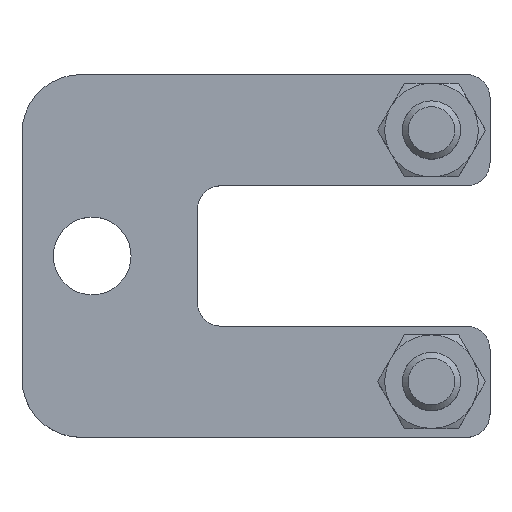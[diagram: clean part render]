
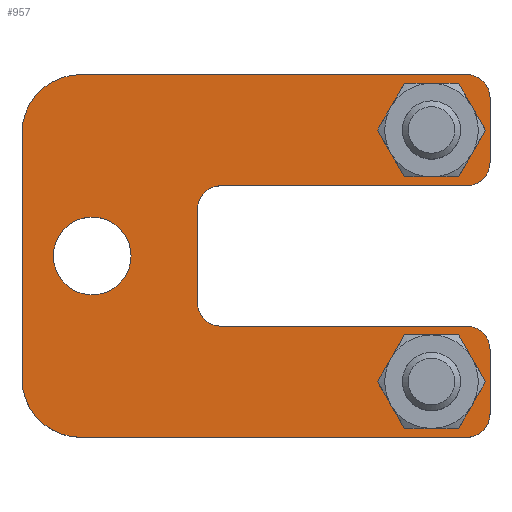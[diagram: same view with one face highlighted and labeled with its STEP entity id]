
A CAD part, top view. The second image highlights one B-rep face of the part: STEP entity #957.
In plain terms, the highlighted planar face has unit normal (0, 0, 1).
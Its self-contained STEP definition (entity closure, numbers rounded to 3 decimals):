
#122=FACE_BOUND('',#267,.T.);
#123=FACE_BOUND('',#268,.T.);
#124=FACE_BOUND('',#269,.T.);
#159=PLANE('',#1057);
#196=FACE_OUTER_BOUND('',#266,.T.);
#266=EDGE_LOOP('',(#767,#768,#769,#770,#771,#772,#773,#774,#775,#776,#777,
#778,#779,#780,#781,#782));
#267=EDGE_LOOP('',(#783));
#268=EDGE_LOOP('',(#784));
#269=EDGE_LOOP('',(#785));
#340=LINE('',#1493,#378);
#346=LINE('',#1508,#384);
#351=LINE('',#1523,#389);
#360=LINE('',#1560,#398);
#363=LINE('',#1568,#401);
#366=LINE('',#1577,#404);
#368=LINE('',#1591,#406);
#369=LINE('',#1593,#407);
#378=VECTOR('',#1169,21.);
#384=VECTOR('',#1183,8.);
#389=VECTOR('',#1196,5.5);
#398=VECTOR('',#1233,5.5);
#401=VECTOR('',#1242,33.);
#404=VECTOR('',#1251,21.);
#406=VECTOR('',#1271,21.);
#407=VECTOR('',#1274,33.);
#414=CIRCLE('',#1016,2.);
#416=CIRCLE('',#1020,2.);
#419=CIRCLE('',#1025,2.);
#428=CIRCLE('',#1037,2.);
#429=CIRCLE('',#1039,2.);
#430=CIRCLE('',#1042,2.);
#431=CIRCLE('',#1045,5.);
#432=CIRCLE('',#1048,5.);
#433=CIRCLE('',#1050,2.067);
#434=CIRCLE('',#1052,2.067);
#435=CIRCLE('',#1054,3.324);
#472=VERTEX_POINT('',#1483);
#473=VERTEX_POINT('',#1484);
#476=VERTEX_POINT('',#1492);
#478=VERTEX_POINT('',#1498);
#479=VERTEX_POINT('',#1499);
#484=VERTEX_POINT('',#1513);
#485=VERTEX_POINT('',#1515);
#487=VERTEX_POINT('',#1521);
#499=VERTEX_POINT('',#1552);
#500=VERTEX_POINT('',#1554);
#501=VERTEX_POINT('',#1558);
#502=VERTEX_POINT('',#1562);
#503=VERTEX_POINT('',#1566);
#504=VERTEX_POINT('',#1570);
#505=VERTEX_POINT('',#1572);
#506=VERTEX_POINT('',#1576);
#507=VERTEX_POINT('',#1582);
#508=VERTEX_POINT('',#1585);
#509=VERTEX_POINT('',#1588);
#558=EDGE_CURVE('',#472,#473,#414,.T.);
#562=EDGE_CURVE('',#476,#473,#340,.T.);
#565=EDGE_CURVE('',#478,#479,#416,.T.);
#570=EDGE_CURVE('',#472,#479,#346,.T.);
#573=EDGE_CURVE('',#484,#485,#419,.T.);
#577=EDGE_CURVE('',#484,#487,#351,.T.);
#591=EDGE_CURVE('',#476,#487,#428,.T.);
#593=EDGE_CURVE('',#499,#500,#429,.T.);
#596=EDGE_CURVE('',#499,#501,#360,.T.);
#598=EDGE_CURVE('',#502,#501,#430,.T.);
#600=EDGE_CURVE('',#502,#503,#363,.T.);
#602=EDGE_CURVE('',#504,#505,#431,.T.);
#604=EDGE_CURVE('',#506,#505,#366,.T.);
#606=EDGE_CURVE('',#506,#503,#432,.T.);
#607=EDGE_CURVE('',#507,#507,#433,.T.);
#608=EDGE_CURVE('',#508,#508,#434,.T.);
#609=EDGE_CURVE('',#509,#509,#435,.T.);
#610=EDGE_CURVE('',#478,#500,#368,.T.);
#611=EDGE_CURVE('',#504,#485,#369,.T.);
#767=ORIENTED_EDGE('',*,*,#573,.F.);
#768=ORIENTED_EDGE('',*,*,#577,.T.);
#769=ORIENTED_EDGE('',*,*,#591,.F.);
#770=ORIENTED_EDGE('',*,*,#562,.T.);
#771=ORIENTED_EDGE('',*,*,#558,.F.);
#772=ORIENTED_EDGE('',*,*,#570,.T.);
#773=ORIENTED_EDGE('',*,*,#565,.F.);
#774=ORIENTED_EDGE('',*,*,#610,.T.);
#775=ORIENTED_EDGE('',*,*,#593,.F.);
#776=ORIENTED_EDGE('',*,*,#596,.T.);
#777=ORIENTED_EDGE('',*,*,#598,.F.);
#778=ORIENTED_EDGE('',*,*,#600,.T.);
#779=ORIENTED_EDGE('',*,*,#606,.F.);
#780=ORIENTED_EDGE('',*,*,#604,.T.);
#781=ORIENTED_EDGE('',*,*,#602,.F.);
#782=ORIENTED_EDGE('',*,*,#611,.T.);
#783=ORIENTED_EDGE('',*,*,#607,.T.);
#784=ORIENTED_EDGE('',*,*,#608,.T.);
#785=ORIENTED_EDGE('',*,*,#609,.T.);
#957=ADVANCED_FACE('',(#196,#122,#123,#124),#159,.T.);
#1016=AXIS2_PLACEMENT_3D('',#1485,#1161,#1162);
#1020=AXIS2_PLACEMENT_3D('',#1500,#1174,#1175);
#1025=AXIS2_PLACEMENT_3D('',#1516,#1189,#1190);
#1037=AXIS2_PLACEMENT_3D('',#1550,#1222,#1223);
#1039=AXIS2_PLACEMENT_3D('',#1555,#1227,#1228);
#1042=AXIS2_PLACEMENT_3D('',#1564,#1237,#1238);
#1045=AXIS2_PLACEMENT_3D('',#1573,#1246,#1247);
#1048=AXIS2_PLACEMENT_3D('',#1580,#1255,#1256);
#1050=AXIS2_PLACEMENT_3D('',#1583,#1259,#1260);
#1052=AXIS2_PLACEMENT_3D('',#1586,#1263,#1264);
#1054=AXIS2_PLACEMENT_3D('',#1589,#1267,#1268);
#1057=AXIS2_PLACEMENT_3D('',#1594,#1275,#1276);
#1161=DIRECTION('center_axis',(0.,0.,1.));
#1162=DIRECTION('ref_axis',(-0.707,-0.707,0.));
#1169=DIRECTION('',(-1.,0.,0.));
#1174=DIRECTION('center_axis',(0.,0.,1.));
#1175=DIRECTION('ref_axis',(-0.707,0.707,0.));
#1183=DIRECTION('',(0.,1.,0.));
#1189=DIRECTION('center_axis',(0.,0.,-1.));
#1190=DIRECTION('ref_axis',(0.707,-0.707,0.));
#1196=DIRECTION('',(0.,1.,0.));
#1222=DIRECTION('center_axis',(0.,0.,-1.));
#1223=DIRECTION('ref_axis',(0.707,0.707,0.));
#1227=DIRECTION('center_axis',(0.,0.,-1.));
#1228=DIRECTION('ref_axis',(0.707,-0.707,0.));
#1233=DIRECTION('',(0.,1.,0.));
#1237=DIRECTION('center_axis',(0.,0.,-1.));
#1238=DIRECTION('ref_axis',(0.707,0.707,0.));
#1242=DIRECTION('',(-1.,0.,0.));
#1246=DIRECTION('center_axis',(0.,0.,-1.));
#1247=DIRECTION('ref_axis',(-0.707,-0.707,0.));
#1251=DIRECTION('',(0.,-1.,0.));
#1255=DIRECTION('center_axis',(0.,0.,-1.));
#1256=DIRECTION('ref_axis',(-0.707,0.707,0.));
#1259=DIRECTION('center_axis',(0.,0.,-1.));
#1260=DIRECTION('ref_axis',(1.,0.,0.));
#1263=DIRECTION('center_axis',(0.,0.,-1.));
#1264=DIRECTION('ref_axis',(1.,0.,0.));
#1267=DIRECTION('center_axis',(0.,0.,-1.));
#1268=DIRECTION('ref_axis',(1.,0.,0.));
#1271=DIRECTION('',(1.,0.,0.));
#1274=DIRECTION('',(1.,0.,0.));
#1275=DIRECTION('center_axis',(0.,0.,1.));
#1276=DIRECTION('ref_axis',(1.,0.,0.));
#1483=CARTESIAN_POINT('',(15.,-4.,2.5));
#1484=CARTESIAN_POINT('',(17.,-6.,2.5));
#1485=CARTESIAN_POINT('Origin',(17.,-4.,2.5));
#1492=CARTESIAN_POINT('',(38.,-6.,2.5));
#1493=CARTESIAN_POINT('',(15.,-6.,2.5));
#1498=CARTESIAN_POINT('',(17.,6.,2.5));
#1499=CARTESIAN_POINT('',(15.,4.,2.5));
#1500=CARTESIAN_POINT('Origin',(17.,4.,2.5));
#1508=CARTESIAN_POINT('',(15.,6.,2.5));
#1513=CARTESIAN_POINT('',(40.,-13.5,2.5));
#1515=CARTESIAN_POINT('',(38.,-15.5,2.5));
#1516=CARTESIAN_POINT('Origin',(38.,-13.5,2.5));
#1521=CARTESIAN_POINT('',(40.,-8.,2.5));
#1523=CARTESIAN_POINT('',(40.,-6.,2.5));
#1550=CARTESIAN_POINT('Origin',(38.,-8.,2.5));
#1552=CARTESIAN_POINT('',(40.,8.,2.5));
#1554=CARTESIAN_POINT('',(38.,6.,2.5));
#1555=CARTESIAN_POINT('Origin',(38.,8.,2.5));
#1558=CARTESIAN_POINT('',(40.,13.5,2.5));
#1560=CARTESIAN_POINT('',(40.,15.5,2.5));
#1562=CARTESIAN_POINT('',(38.,15.5,2.5));
#1564=CARTESIAN_POINT('Origin',(38.,13.5,2.5));
#1566=CARTESIAN_POINT('',(5.,15.5,2.5));
#1568=CARTESIAN_POINT('',(0.,15.5,2.5));
#1570=CARTESIAN_POINT('',(5.,-15.5,2.5));
#1572=CARTESIAN_POINT('',(0.,-10.5,2.5));
#1573=CARTESIAN_POINT('Origin',(5.,-10.5,2.5));
#1576=CARTESIAN_POINT('',(0.,10.5,2.5));
#1577=CARTESIAN_POINT('',(0.,-15.5,2.5));
#1580=CARTESIAN_POINT('Origin',(5.,10.5,2.5));
#1582=CARTESIAN_POINT('',(37.067,10.75,2.5));
#1583=CARTESIAN_POINT('Origin',(35.,10.75,2.5));
#1585=CARTESIAN_POINT('',(37.067,-10.75,2.5));
#1586=CARTESIAN_POINT('Origin',(35.,-10.75,2.5));
#1588=CARTESIAN_POINT('',(9.324,0.,2.5));
#1589=CARTESIAN_POINT('Origin',(6.,0.,2.5));
#1591=CARTESIAN_POINT('',(40.,6.,2.5));
#1593=CARTESIAN_POINT('',(40.,-15.5,2.5));
#1594=CARTESIAN_POINT('Origin',(20.391,0.,2.5));
